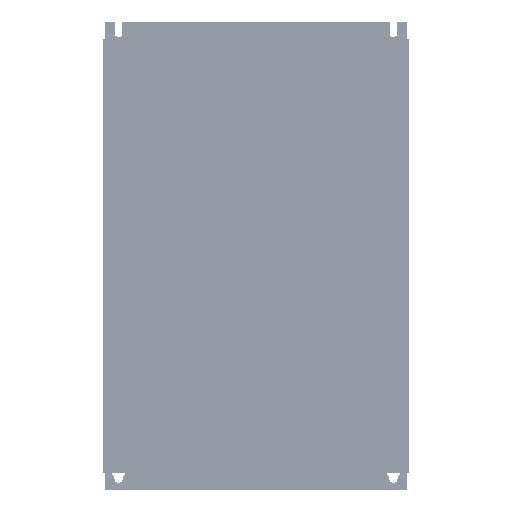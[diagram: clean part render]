
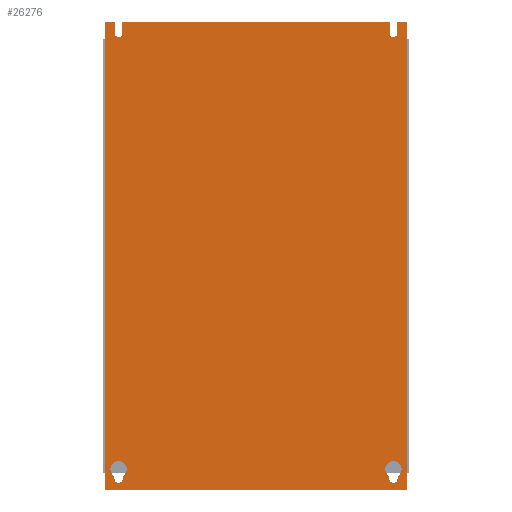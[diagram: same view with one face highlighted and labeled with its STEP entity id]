
A CAD part, front view. The second image highlights one B-rep face of the part: STEP entity #26276.
In plain terms, the highlighted planar face has unit normal (0, -1, 0).
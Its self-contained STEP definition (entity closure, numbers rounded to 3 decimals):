
#6246=DIRECTION('',(0.,0.,-1.));
#6247=VECTOR('',#6246,15.);
#6248=CARTESIAN_POINT('',(393.25,0.,0.));
#6249=LINE('',#6248,#6247);
#6250=DIRECTION('',(1.,0.,0.));
#6251=VECTOR('',#6250,12.75);
#6252=CARTESIAN_POINT('',(393.25,0.,0.));
#6253=LINE('',#6252,#6251);
#6254=DIRECTION('',(0.,0.,-1.));
#6255=VECTOR('',#6254,630.);
#6256=CARTESIAN_POINT('',(406.,0.,0.));
#6257=LINE('',#6256,#6255);
#6258=DIRECTION('',(-1.,0.,0.));
#6259=VECTOR('',#6258,406.);
#6260=CARTESIAN_POINT('',(406.,0.,-630.));
#6261=LINE('',#6260,#6259);
#6262=DIRECTION('',(0.,0.,1.));
#6263=VECTOR('',#6262,630.);
#6264=CARTESIAN_POINT('',(0.,0.,-630.));
#6265=LINE('',#6264,#6263);
#6266=DIRECTION('',(1.,0.,0.));
#6267=VECTOR('',#6266,12.75);
#6268=CARTESIAN_POINT('',(0.,0.,0.));
#6269=LINE('',#6268,#6267);
#6270=DIRECTION('',(0.,0.,-1.));
#6271=VECTOR('',#6270,15.);
#6272=CARTESIAN_POINT('',(12.75,0.,0.));
#6273=LINE('',#6272,#6271);
#6274=CARTESIAN_POINT('',(18.,0.,-15.));
#6275=DIRECTION('',(0.,1.,0.));
#6276=DIRECTION('',(1.,0.,0.));
#6277=AXIS2_PLACEMENT_3D('',#6274,#6275,#6276);
#6279=DIRECTION('',(0.,0.,-1.));
#6280=VECTOR('',#6279,15.);
#6281=CARTESIAN_POINT('',(23.25,0.,0.));
#6282=LINE('',#6281,#6280);
#6283=DIRECTION('',(1.,0.,0.));
#6284=VECTOR('',#6283,359.5);
#6285=CARTESIAN_POINT('',(23.25,0.,0.));
#6286=LINE('',#6285,#6284);
#6287=DIRECTION('',(0.,0.,-1.));
#6288=VECTOR('',#6287,15.);
#6289=CARTESIAN_POINT('',(382.75,0.,0.));
#6290=LINE('',#6289,#6288);
#6291=CARTESIAN_POINT('',(388.,0.,-15.));
#6292=DIRECTION('',(0.,1.,0.));
#6293=DIRECTION('',(1.,0.,0.));
#6294=AXIS2_PLACEMENT_3D('',#6291,#6292,#6293);
#6296=DIRECTION('',(0.,0.,1.));
#6297=VECTOR('',#6296,3.474);
#6298=CARTESIAN_POINT('',(393.5,0.,-615.));
#6299=LINE('',#6298,#6297);
#6300=CARTESIAN_POINT('',(388.,0.,-602.));
#6301=DIRECTION('',(0.,1.,0.));
#6302=DIRECTION('',(-0.5,0.,-0.866));
#6303=AXIS2_PLACEMENT_3D('',#6300,#6301,#6302);
#6305=DIRECTION('',(0.,0.,-1.));
#6306=VECTOR('',#6305,3.474);
#6307=CARTESIAN_POINT('',(382.5,0.,-611.526));
#6308=LINE('',#6307,#6306);
#6309=CARTESIAN_POINT('',(388.,0.,-615.));
#6310=DIRECTION('',(0.,1.,0.));
#6311=DIRECTION('',(1.,0.,0.));
#6312=AXIS2_PLACEMENT_3D('',#6309,#6310,#6311);
#6314=DIRECTION('',(0.,0.,1.));
#6315=VECTOR('',#6314,3.474);
#6316=CARTESIAN_POINT('',(23.5,0.,-615.));
#6317=LINE('',#6316,#6315);
#6318=CARTESIAN_POINT('',(18.,0.,-602.));
#6319=DIRECTION('',(0.,1.,0.));
#6320=DIRECTION('',(-0.5,0.,-0.866));
#6321=AXIS2_PLACEMENT_3D('',#6318,#6319,#6320);
#6323=DIRECTION('',(0.,0.,-1.));
#6324=VECTOR('',#6323,3.474);
#6325=CARTESIAN_POINT('',(12.5,0.,-611.526));
#6326=LINE('',#6325,#6324);
#6327=CARTESIAN_POINT('',(18.,0.,-615.));
#6328=DIRECTION('',(0.,1.,0.));
#6329=DIRECTION('',(1.,0.,0.));
#6330=AXIS2_PLACEMENT_3D('',#6327,#6328,#6329);
#12774=CARTESIAN_POINT('',(393.25,0.,0.));
#12775=CARTESIAN_POINT('',(393.25,0.,-15.));
#12776=VERTEX_POINT('',#12774);
#12777=VERTEX_POINT('',#12775);
#12778=CARTESIAN_POINT('',(406.,0.,0.));
#12779=VERTEX_POINT('',#12778);
#12780=CARTESIAN_POINT('',(406.,0.,-630.));
#12781=VERTEX_POINT('',#12780);
#12782=CARTESIAN_POINT('',(0.,0.,-630.));
#12783=VERTEX_POINT('',#12782);
#12784=CARTESIAN_POINT('',(0.,0.,0.));
#12785=VERTEX_POINT('',#12784);
#12786=CARTESIAN_POINT('',(12.75,0.,0.));
#12787=VERTEX_POINT('',#12786);
#12788=CARTESIAN_POINT('',(12.75,0.,-15.));
#12789=VERTEX_POINT('',#12788);
#12790=CARTESIAN_POINT('',(23.25,0.,-15.));
#12791=VERTEX_POINT('',#12790);
#12792=CARTESIAN_POINT('',(23.25,0.,0.));
#12793=VERTEX_POINT('',#12792);
#12794=CARTESIAN_POINT('',(382.75,0.,0.));
#12795=VERTEX_POINT('',#12794);
#12796=CARTESIAN_POINT('',(382.75,0.,-15.));
#12797=VERTEX_POINT('',#12796);
#16918=CARTESIAN_POINT('',(393.5,0.,-615.));
#16919=CARTESIAN_POINT('',(393.5,0.,-611.526));
#16920=VERTEX_POINT('',#16918);
#16921=VERTEX_POINT('',#16919);
#16922=CARTESIAN_POINT('',(382.5,0.,-611.526));
#16923=VERTEX_POINT('',#16922);
#16924=CARTESIAN_POINT('',(382.5,0.,-615.));
#16925=VERTEX_POINT('',#16924);
#16926=CARTESIAN_POINT('',(23.5,0.,-615.));
#16927=CARTESIAN_POINT('',(23.5,0.,-611.526));
#16928=VERTEX_POINT('',#16926);
#16929=VERTEX_POINT('',#16927);
#16930=CARTESIAN_POINT('',(12.5,0.,-611.526));
#16931=VERTEX_POINT('',#16930);
#16932=CARTESIAN_POINT('',(12.5,0.,-615.));
#16933=VERTEX_POINT('',#16932);
#26227=CARTESIAN_POINT('',(0.,0.,0.));
#26228=DIRECTION('',(0.,1.,0.));
#26229=DIRECTION('',(1.,0.,0.));
#26230=AXIS2_PLACEMENT_3D('',#26227,#26228,#26229);
#26231=PLANE('',#26230);
#26233=ORIENTED_EDGE('',*,*,#26232,.F.);
#26234=ORIENTED_EDGE('',*,*,#26217,.T.);
#26235=ORIENTED_EDGE('',*,*,#16981,.T.);
#26237=ORIENTED_EDGE('',*,*,#26236,.T.);
#26239=ORIENTED_EDGE('',*,*,#26238,.T.);
#26241=ORIENTED_EDGE('',*,*,#26240,.T.);
#26243=ORIENTED_EDGE('',*,*,#26242,.T.);
#26245=ORIENTED_EDGE('',*,*,#26244,.F.);
#26247=ORIENTED_EDGE('',*,*,#26246,.F.);
#26249=ORIENTED_EDGE('',*,*,#26248,.T.);
#26251=ORIENTED_EDGE('',*,*,#26250,.T.);
#26253=ORIENTED_EDGE('',*,*,#26252,.F.);
#26254=EDGE_LOOP('',(#26233,#26234,#26235,#26237,#26239,#26241,#26243,#26245,
#26247,#26249,#26251,#26253));
#26255=FACE_OUTER_BOUND('',#26254,.F.);
#26257=ORIENTED_EDGE('',*,*,#26256,.T.);
#26259=ORIENTED_EDGE('',*,*,#26258,.F.);
#26261=ORIENTED_EDGE('',*,*,#26260,.T.);
#26263=ORIENTED_EDGE('',*,*,#26262,.F.);
#26264=EDGE_LOOP('',(#26257,#26259,#26261,#26263));
#26265=FACE_BOUND('',#26264,.F.);
#26267=ORIENTED_EDGE('',*,*,#26266,.T.);
#26269=ORIENTED_EDGE('',*,*,#26268,.F.);
#26271=ORIENTED_EDGE('',*,*,#26270,.T.);
#26273=ORIENTED_EDGE('',*,*,#26272,.F.);
#26274=EDGE_LOOP('',(#26267,#26269,#26271,#26273));
#26275=FACE_BOUND('',#26274,.F.);
#26276=ADVANCED_FACE('',(#26255,#26265,#26275),#26231,.F.);
#6278=CIRCLE('',#6277,5.25);
#6295=CIRCLE('',#6294,5.25);
#6304=CIRCLE('',#6303,11.);
#6313=CIRCLE('',#6312,5.5);
#6322=CIRCLE('',#6321,11.);
#6331=CIRCLE('',#6330,5.5);
#16981=EDGE_CURVE('',#12779,#12781,#6257,.T.);
#26217=EDGE_CURVE('',#12776,#12779,#6253,.T.);
#26232=EDGE_CURVE('',#12776,#12777,#6249,.T.);
#26236=EDGE_CURVE('',#12781,#12783,#6261,.T.);
#26238=EDGE_CURVE('',#12783,#12785,#6265,.T.);
#26240=EDGE_CURVE('',#12785,#12787,#6269,.T.);
#26242=EDGE_CURVE('',#12787,#12789,#6273,.T.);
#26244=EDGE_CURVE('',#12791,#12789,#6278,.T.);
#26246=EDGE_CURVE('',#12793,#12791,#6282,.T.);
#26248=EDGE_CURVE('',#12793,#12795,#6286,.T.);
#26250=EDGE_CURVE('',#12795,#12797,#6290,.T.);
#26252=EDGE_CURVE('',#12777,#12797,#6295,.T.);
#26256=EDGE_CURVE('',#16920,#16921,#6299,.T.);
#26258=EDGE_CURVE('',#16923,#16921,#6304,.T.);
#26260=EDGE_CURVE('',#16923,#16925,#6308,.T.);
#26262=EDGE_CURVE('',#16920,#16925,#6313,.T.);
#26266=EDGE_CURVE('',#16928,#16929,#6317,.T.);
#26268=EDGE_CURVE('',#16931,#16929,#6322,.T.);
#26270=EDGE_CURVE('',#16931,#16933,#6326,.T.);
#26272=EDGE_CURVE('',#16928,#16933,#6331,.T.);
